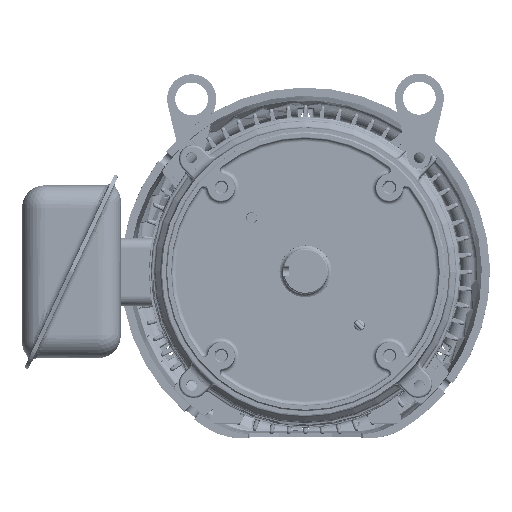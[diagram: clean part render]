
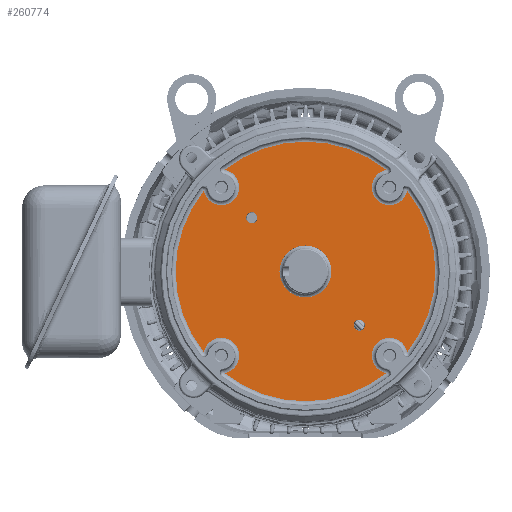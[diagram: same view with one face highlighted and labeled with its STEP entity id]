
A CAD part, top view. The second image highlights one B-rep face of the part: STEP entity #260774.
In plain terms, the highlighted planar face has unit normal (0, 0, 1) as drawn and (0, 0, -1) by its records, which use the part's own axes.
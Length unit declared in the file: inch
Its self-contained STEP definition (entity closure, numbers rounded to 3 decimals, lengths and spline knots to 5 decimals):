
#243925=CARTESIAN_POINT('',(-1.63518,-1.63518,-1.391));
#243926=DIRECTION('',(0.,0.,1.));
#243927=DIRECTION('',(-1.,0.,0.));
#243928=AXIS2_PLACEMENT_3D('',#243925,#243926,#243927);
#243930=CARTESIAN_POINT('',(-1.63518,-1.63518,-1.391));
#243931=DIRECTION('',(0.,0.,1.));
#243932=DIRECTION('',(1.,0.,0.));
#243933=AXIS2_PLACEMENT_3D('',#243930,#243931,#243932);
#243935=CARTESIAN_POINT('',(1.63518,1.63518,-1.391));
#243936=DIRECTION('',(0.,0.,1.));
#243937=DIRECTION('',(-1.,0.,0.));
#243938=AXIS2_PLACEMENT_3D('',#243935,#243936,#243937);
#243940=CARTESIAN_POINT('',(1.63518,1.63518,-1.391));
#243941=DIRECTION('',(0.,0.,1.));
#243942=DIRECTION('',(1.,0.,0.));
#243943=AXIS2_PLACEMENT_3D('',#243940,#243941,#243942);
#243945=CARTESIAN_POINT('',(0.,0.,-1.391));
#243946=DIRECTION('',(0.,0.,1.));
#243947=DIRECTION('',(-1.,0.,0.));
#243948=AXIS2_PLACEMENT_3D('',#243945,#243946,#243947);
#243950=CARTESIAN_POINT('',(0.,0.,-1.391));
#243951=DIRECTION('',(0.,0.,1.));
#243952=DIRECTION('',(1.,0.,0.));
#243953=AXIS2_PLACEMENT_3D('',#243950,#243951,#243952);
#243965=CARTESIAN_POINT('',(0.,0.,-1.391));
#243966=DIRECTION('',(0.,0.,-1.));
#243967=DIRECTION('',(-0.782,-0.623,0.));
#243968=AXIS2_PLACEMENT_3D('',#243965,#243966,#243967);
#248633=CARTESIAN_POINT('',(0.,0.,-1.391));
#248634=DIRECTION('',(0.,0.,-1.));
#248635=DIRECTION('',(-0.623,0.782,0.));
#248636=AXIS2_PLACEMENT_3D('',#248633,#248634,#248635);
#248713=CARTESIAN_POINT('',(-2.56326,2.56326,-1.391));
#248714=DIRECTION('',(0.,0.,1.));
#248715=DIRECTION('',(-0.983,-0.182,0.));
#248716=AXIS2_PLACEMENT_3D('',#248713,#248714,#248715);
#248733=CARTESIAN_POINT('',(2.56326,2.56326,-1.391));
#248734=DIRECTION('',(0.,0.,1.));
#248735=DIRECTION('',(-0.182,0.983,0.));
#248736=AXIS2_PLACEMENT_3D('',#248733,#248734,#248735);
#248783=CARTESIAN_POINT('',(0.,0.,-1.391));
#248784=DIRECTION('',(0.,0.,-1.));
#248785=DIRECTION('',(0.782,0.623,0.));
#248786=AXIS2_PLACEMENT_3D('',#248783,#248784,#248785);
#248833=CARTESIAN_POINT('',(2.56326,-2.56326,-1.391));
#248834=DIRECTION('',(0.,0.,1.));
#248835=DIRECTION('',(0.983,0.182,0.));
#248836=AXIS2_PLACEMENT_3D('',#248833,#248834,#248835);
#248883=CARTESIAN_POINT('',(0.,0.,-1.391));
#248884=DIRECTION('',(0.,0.,-1.));
#248885=DIRECTION('',(0.623,-0.782,0.));
#248886=AXIS2_PLACEMENT_3D('',#248883,#248884,#248885);
#248933=CARTESIAN_POINT('',(-2.56326,-2.56326,-1.391));
#248934=DIRECTION('',(0.,0.,1.));
#248935=DIRECTION('',(0.182,-0.983,0.));
#248936=AXIS2_PLACEMENT_3D('',#248933,#248934,#248935);
#254039=CARTESIAN_POINT('',(-3.09683,-2.46469,-1.391));
#254040=CARTESIAN_POINT('',(-3.09683,2.46469,-1.391));
#254041=VERTEX_POINT('',#254039);
#254042=VERTEX_POINT('',#254040);
#254047=CARTESIAN_POINT('',(-2.46469,-3.09683,-1.391));
#254048=VERTEX_POINT('',#254047);
#254053=CARTESIAN_POINT('',(2.46469,-3.09683,-1.391));
#254054=VERTEX_POINT('',#254053);
#254059=CARTESIAN_POINT('',(3.09683,-2.46469,-1.391));
#254060=VERTEX_POINT('',#254059);
#254065=CARTESIAN_POINT('',(3.09683,2.46469,-1.391));
#254066=VERTEX_POINT('',#254065);
#254071=CARTESIAN_POINT('',(2.46469,3.09683,-1.391));
#254072=VERTEX_POINT('',#254071);
#254077=CARTESIAN_POINT('',(-2.46469,3.09683,-1.391));
#254078=VERTEX_POINT('',#254077);
#254132=CARTESIAN_POINT('',(-1.80668,-1.63518,-1.391));
#254133=CARTESIAN_POINT('',(-1.46368,-1.63518,-1.391));
#254134=VERTEX_POINT('',#254132);
#254135=VERTEX_POINT('',#254133);
#254140=CARTESIAN_POINT('',(1.46368,1.63518,-1.391));
#254141=CARTESIAN_POINT('',(1.80668,1.63518,-1.391));
#254142=VERTEX_POINT('',#254140);
#254143=VERTEX_POINT('',#254141);
#254176=CARTESIAN_POINT('',(-0.7925,0.,-1.391));
#254177=CARTESIAN_POINT('',(0.7925,0.,-1.391));
#254178=VERTEX_POINT('',#254176);
#254179=VERTEX_POINT('',#254177);
#260734=CARTESIAN_POINT('',(0.,0.,-1.391));
#260735=DIRECTION('',(0.,0.,-1.));
#260736=DIRECTION('',(1.,0.,0.));
#260737=AXIS2_PLACEMENT_3D('',#260734,#260735,#260736);
#260738=PLANE('',#260737);
#260740=ORIENTED_EDGE('',*,*,#260739,.F.);
#260742=ORIENTED_EDGE('',*,*,#260741,.F.);
#260744=ORIENTED_EDGE('',*,*,#260743,.F.);
#260746=ORIENTED_EDGE('',*,*,#260745,.F.);
#260748=ORIENTED_EDGE('',*,*,#260747,.F.);
#260750=ORIENTED_EDGE('',*,*,#260749,.F.);
#260752=ORIENTED_EDGE('',*,*,#260751,.F.);
#260754=ORIENTED_EDGE('',*,*,#260753,.F.);
#260755=EDGE_LOOP('',(#260740,#260742,#260744,#260746,#260748,#260750,#260752,
#260754));
#260756=FACE_OUTER_BOUND('',#260755,.F.);
#260758=ORIENTED_EDGE('',*,*,#260757,.F.);
#260760=ORIENTED_EDGE('',*,*,#260759,.F.);
#260761=EDGE_LOOP('',(#260758,#260760));
#260762=FACE_BOUND('',#260761,.F.);
#260763=ORIENTED_EDGE('',*,*,#260724,.F.);
#260765=ORIENTED_EDGE('',*,*,#260764,.F.);
#260766=EDGE_LOOP('',(#260763,#260765));
#260767=FACE_BOUND('',#260766,.F.);
#260769=ORIENTED_EDGE('',*,*,#260768,.F.);
#260771=ORIENTED_EDGE('',*,*,#260770,.F.);
#260772=EDGE_LOOP('',(#260769,#260771));
#260773=FACE_BOUND('',#260772,.F.);
#260774=ADVANCED_FACE('',(#260756,#260762,#260767,#260773),#260738,.T.);
#243929=CIRCLE('',#243928,0.1715);
#243934=CIRCLE('',#243933,0.1715);
#243939=CIRCLE('',#243938,0.1715);
#243944=CIRCLE('',#243943,0.1715);
#243949=CIRCLE('',#243948,0.7925);
#243954=CIRCLE('',#243953,0.7925);
#243969=CIRCLE('',#243968,3.95791);
#248637=CIRCLE('',#248636,3.95791);
#248717=CIRCLE('',#248716,0.54259);
#248737=CIRCLE('',#248736,0.54259);
#248787=CIRCLE('',#248786,3.95791);
#248837=CIRCLE('',#248836,0.54259);
#248887=CIRCLE('',#248886,3.95791);
#248937=CIRCLE('',#248936,0.54259);
#260724=EDGE_CURVE('',#254142,#254143,#243939,.T.);
#260739=EDGE_CURVE('',#254041,#254042,#243969,.T.);
#260741=EDGE_CURVE('',#254048,#254041,#248937,.T.);
#260743=EDGE_CURVE('',#254054,#254048,#248887,.T.);
#260745=EDGE_CURVE('',#254060,#254054,#248837,.T.);
#260747=EDGE_CURVE('',#254066,#254060,#248787,.T.);
#260749=EDGE_CURVE('',#254072,#254066,#248737,.T.);
#260751=EDGE_CURVE('',#254078,#254072,#248637,.T.);
#260753=EDGE_CURVE('',#254042,#254078,#248717,.T.);
#260757=EDGE_CURVE('',#254134,#254135,#243929,.T.);
#260759=EDGE_CURVE('',#254135,#254134,#243934,.T.);
#260764=EDGE_CURVE('',#254143,#254142,#243944,.T.);
#260768=EDGE_CURVE('',#254178,#254179,#243949,.T.);
#260770=EDGE_CURVE('',#254179,#254178,#243954,.T.);
